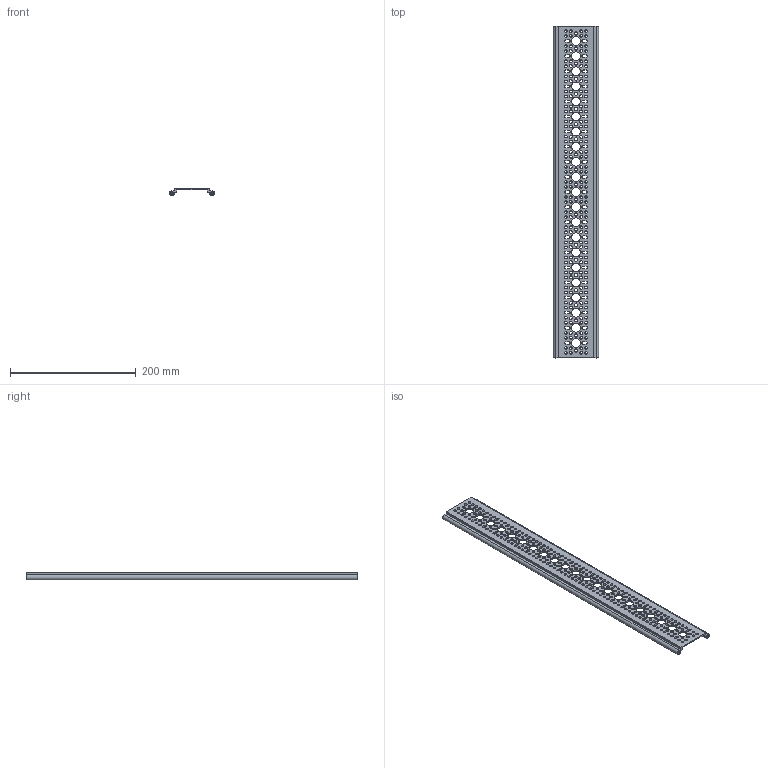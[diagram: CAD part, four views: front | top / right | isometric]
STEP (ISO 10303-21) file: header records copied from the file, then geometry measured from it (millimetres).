
FILE_DESCRIPTION (( 'STEP AP203' ), '1' );
FILE_NAME ('1122-0021-0528.STEP', '2022-10-31T19:36:43', ( '' ), ( '' ), 'SwSTEP 2.0', 'SolidWorks 2016', '' );
FILE_SCHEMA (( 'CONFIG_CONTROL_DESIGN' ));
Length unit declared in the file: millimetre
Products named in the file (1): 1122-0021-0528
Bounding box: 72 x 528 x 12 mm (x, y, z)
Volume: 121783.2 mm3; surface area: 101593.1 mm2
Topology: 1 solids, 1 shells, 1338 faces, 3996 edges, 2660 vertices
Faces by surface type: cylinder 990, plane 324, cone 16, bspline 8
Entity records: 61583 total; most frequent: CARTESIAN_POINT 24967, ORIENTED_EDGE 7992, DIRECTION 7338, EDGE_CURVE 3996, AXIS2_PLACEMENT_3D 2695, VERTEX_POINT 2660, VECTOR 1948, LINE 1948
